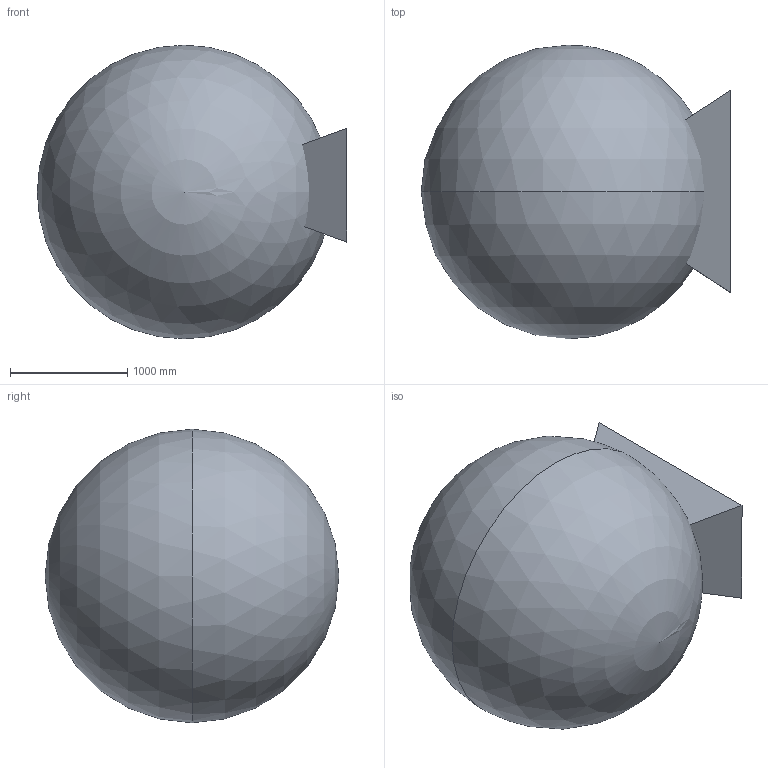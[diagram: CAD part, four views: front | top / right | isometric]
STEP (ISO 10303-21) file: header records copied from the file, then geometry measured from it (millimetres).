
FILE_DESCRIPTION (( 'STEP AP214' ), '1' );
FILE_NAME ('06vxc12-a00_00.STEP', '2025-04-16T04:36:23', ( '' ), ( '' ), 'SwSTEP 2.0', 'SolidWorks 2024', '' );
FILE_SCHEMA (( 'AUTOMOTIVE_DESIGN' ));
Length unit declared in the file: millimetre
Products named in the file (10): NHC12_B_AXIS^06vxc12-a00_00; NHC12_R_AXIS^06vxc12-a00_00; NHC12_S_AXIS^06vxc12-a00_00; 06vxc12-a00_00; [Range NHC12]^06vxc12-a00_00; NHC12_L_AXIS^06vxc12-a00_00; NHC12_BASE_AXIS^06vxc12-a00_00; NHC12_U_AXIS^06vxc12-a00_00; Camera Range^06vxc12-a00_00; NHC12_T_AXIS^06vxc12-a00_00
Assembly tree (9 placements, depth 2):
  06vxc12-a00_00
    NHC12_BASE_AXIS^06vxc12-a00_00
    NHC12_S_AXIS^06vxc12-a00_00
    NHC12_L_AXIS^06vxc12-a00_00
    NHC12_U_AXIS^06vxc12-a00_00
    NHC12_R_AXIS^06vxc12-a00_00
    NHC12_B_AXIS^06vxc12-a00_00
    NHC12_T_AXIS^06vxc12-a00_00
    [Range NHC12]^06vxc12-a00_00
    Camera Range^06vxc12-a00_00
Bounding box: 2634.05 x 2500 x 2500 mm (x, y, z)
Volume: 8865490747.4 mm3; surface area: 26986642.1 mm2
Topology: 12 solids, 15 shells, 2695 faces, 6915 edges, 4281 vertices
Faces by surface type: bspline 1031, cylinder 778, plane 622, cone 242, torus 20, sphere 2
Entity records: 201373 total; most frequent: CARTESIAN_POINT 119192, ORIENTED_EDGE 13694, DIRECTION 8849, EDGE_CURVE 6847, VERTEX_POINT 4278, AXIS2_PLACEMENT_3D 3454, EDGE_LOOP 2807, ADVANCED_FACE 2695
